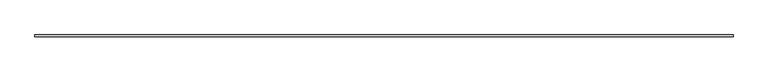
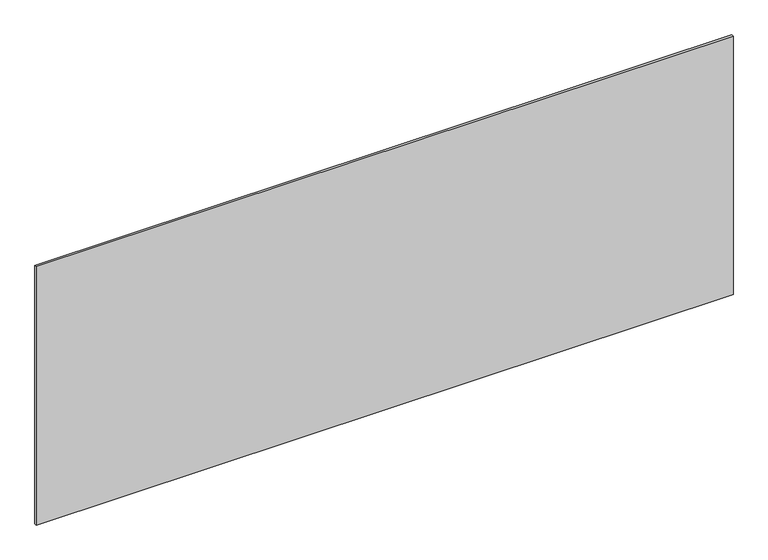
"""IFC4 building model written with IfcOpenShell, lengths in millimetres: plate geometry, システム パネル : 標準."""

from ifc_helpers import new_model, si_unit, origin, origin_with_axes, place, context, project, spatial, polyline, outline, extrude, source, transform, mapped, element, save


def plate_ab7e929b(model_context):
    return source(origin(), model_context, "Body", "SweptSolid", [
        extrude(outline(polyline([(1697.5, -5.0), (-1697.5, -5.0), (-1697.5, 5.0), (1697.5, 5.0), (1697.5, -5.0)])), origin_with_axes(), (0.0, 0.0, 1.0), 1331.9755531),
    ])


if __name__ == "__main__":
    model = new_model("IFC4")
    model_context = context("Model", 3, world=origin())
    ifc_project = project(units=[si_unit("LENGTHUNIT", "METRE", prefix="MILLI")], contexts=[model_context])
    site = spatial("IfcSite", under=ifc_project)
    building = spatial("IfcBuilding", under=site)
    placement = place(None, origin())
    plate_shape = plate_ab7e929b(model_context)
    element("IfcPlate", 1, ObjectType="システム パネル : 標準", at=placement, inside=building, context=model_context, shape_type="MappedRepresentation", body=[
        mapped(plate_shape, transform((0.0, 0.0, 0.0), x_axis=(1.0, 0.0, 0.0), y_axis=(0.0, 1.0, 0.0), z_axis=(0.0, 0.0, 1.0))),
    ])
    save(model, "model.ifc")
